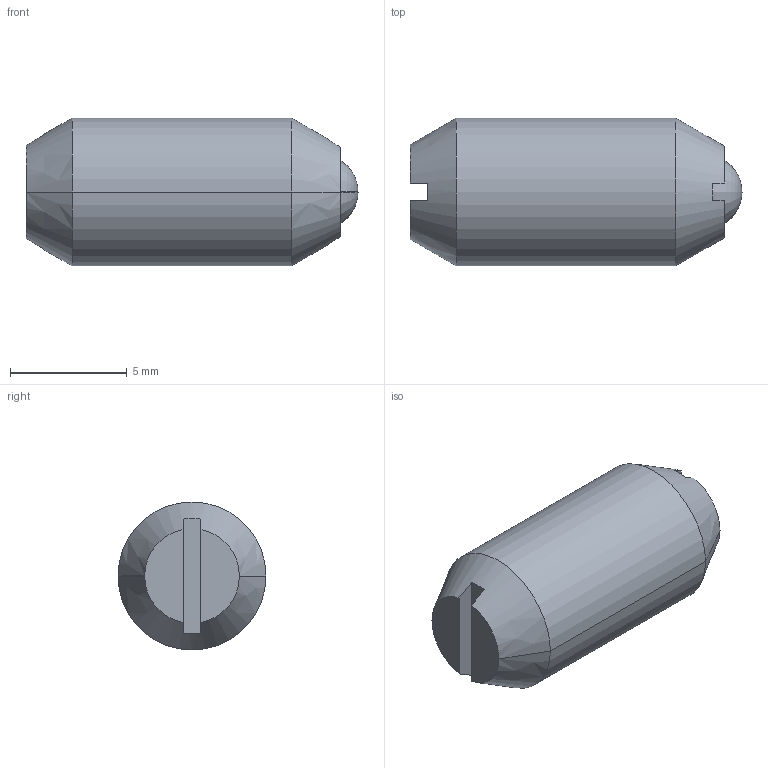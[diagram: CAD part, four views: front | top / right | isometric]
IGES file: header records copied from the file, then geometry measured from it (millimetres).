
Start section:  PTC IGES file: dl54-part-3d.igs
Global section: file name: dl54-part-3d.igs; native system: Pro/ENGINEER by Parametric Technology Corporation; preprocessor: 2002350; author: chant; organization: Unknown; date: 070201.115736; units: inch
Bounding box: 14.25 x 6.35 x 6.35 mm (x, y, z)
Surface area: 391.7 mm2 (no closed solid volume)
Topology: 0 solids, 0 shells, 25 faces, 182 edges, 228 vertices
Faces by surface type: bspline 13, revolution 12
